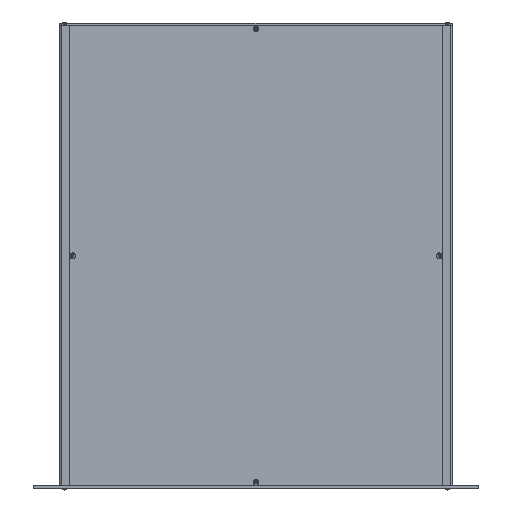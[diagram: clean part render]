
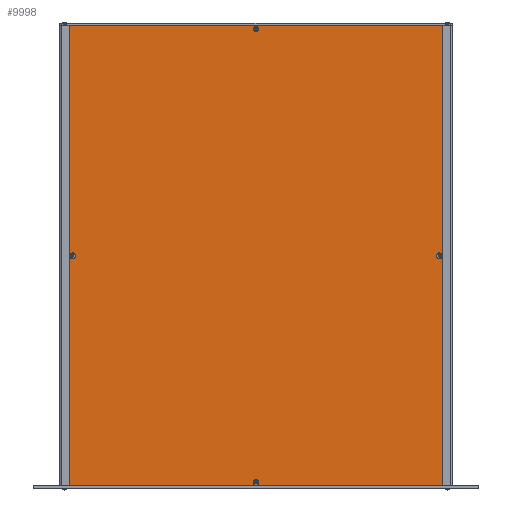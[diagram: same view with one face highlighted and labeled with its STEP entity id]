
A CAD part, top view. The second image highlights one B-rep face of the part: STEP entity #9998.
In plain terms, the highlighted planar face has unit normal (0, 0, 1).
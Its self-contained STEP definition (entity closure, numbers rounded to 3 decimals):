
#715=FACE_BOUND('',#1956,.T.);
#716=FACE_BOUND('',#1957,.T.);
#717=FACE_BOUND('',#1958,.T.);
#718=FACE_BOUND('',#1959,.T.);
#1072=PLANE('',#10913);
#1362=FACE_OUTER_BOUND('',#1955,.T.);
#1955=EDGE_LOOP('',(#7490,#7491,#7492,#7493));
#1956=EDGE_LOOP('',(#7494));
#1957=EDGE_LOOP('',(#7495));
#1958=EDGE_LOOP('',(#7496));
#1959=EDGE_LOOP('',(#7497));
#2923=LINE('',#15671,#3668);
#2924=LINE('',#15673,#3669);
#2925=LINE('',#15675,#3670);
#2926=LINE('',#15676,#3671);
#3668=VECTOR('',#12513,10.);
#3669=VECTOR('',#12514,10.);
#3670=VECTOR('',#12515,10.);
#3671=VECTOR('',#12516,10.);
#4223=CIRCLE('',#10909,3.2);
#4226=CIRCLE('',#10914,3.2);
#4227=CIRCLE('',#10915,3.2);
#4228=CIRCLE('',#10916,3.2);
#4860=VERTEX_POINT('',#15659);
#4863=VERTEX_POINT('',#15669);
#4864=VERTEX_POINT('',#15670);
#4865=VERTEX_POINT('',#15672);
#4866=VERTEX_POINT('',#15674);
#4867=VERTEX_POINT('',#15677);
#4868=VERTEX_POINT('',#15679);
#4869=VERTEX_POINT('',#15681);
#5822=EDGE_CURVE('',#4860,#4860,#4223,.T.);
#5827=EDGE_CURVE('',#4863,#4864,#2923,.T.);
#5828=EDGE_CURVE('',#4864,#4865,#2924,.T.);
#5829=EDGE_CURVE('',#4866,#4865,#2925,.T.);
#5830=EDGE_CURVE('',#4863,#4866,#2926,.T.);
#5831=EDGE_CURVE('',#4867,#4867,#4226,.T.);
#5832=EDGE_CURVE('',#4868,#4868,#4227,.T.);
#5833=EDGE_CURVE('',#4869,#4869,#4228,.T.);
#7490=ORIENTED_EDGE('',*,*,#5827,.T.);
#7491=ORIENTED_EDGE('',*,*,#5828,.T.);
#7492=ORIENTED_EDGE('',*,*,#5829,.F.);
#7493=ORIENTED_EDGE('',*,*,#5830,.F.);
#7494=ORIENTED_EDGE('',*,*,#5831,.F.);
#7495=ORIENTED_EDGE('',*,*,#5832,.F.);
#7496=ORIENTED_EDGE('',*,*,#5833,.F.);
#7497=ORIENTED_EDGE('',*,*,#5822,.F.);
#9998=ADVANCED_FACE('',(#1362,#715,#716,#717,#718),#1072,.T.);
#10909=AXIS2_PLACEMENT_3D('',#15660,#12501,#12502);
#10913=AXIS2_PLACEMENT_3D('',#15668,#12511,#12512);
#10914=AXIS2_PLACEMENT_3D('',#15678,#12517,#12518);
#10915=AXIS2_PLACEMENT_3D('',#15680,#12519,#12520);
#10916=AXIS2_PLACEMENT_3D('',#15682,#12521,#12522);
#12501=DIRECTION('center_axis',(0.,0.,1.));
#12502=DIRECTION('ref_axis',(-1.,0.,0.));
#12511=DIRECTION('center_axis',(0.,0.,1.));
#12512=DIRECTION('ref_axis',(1.,0.,0.));
#12513=DIRECTION('',(1.,0.,0.));
#12514=DIRECTION('',(0.,1.,0.));
#12515=DIRECTION('',(1.,0.,0.));
#12516=DIRECTION('',(0.,1.,0.));
#12517=DIRECTION('center_axis',(0.,0.,1.));
#12518=DIRECTION('ref_axis',(-1.,0.,0.));
#12519=DIRECTION('center_axis',(0.,0.,1.));
#12520=DIRECTION('ref_axis',(-1.,0.,0.));
#12521=DIRECTION('center_axis',(0.,0.,1.));
#12522=DIRECTION('ref_axis',(-1.,0.,0.));
#15659=CARTESIAN_POINT('',(45.5,250.,-42.05));
#15660=CARTESIAN_POINT('Origin',(42.3,250.,-42.05));
#15668=CARTESIAN_POINT('Origin',(38.4,0.,-42.05));
#15669=CARTESIAN_POINT('',(38.4,0.,-42.05));
#15670=CARTESIAN_POINT('',(444.6,0.,-42.05));
#15671=CARTESIAN_POINT('',(38.4,0.,-42.05));
#15672=CARTESIAN_POINT('',(444.6,500.,-42.05));
#15673=CARTESIAN_POINT('',(444.6,0.,-42.05));
#15674=CARTESIAN_POINT('',(38.4,500.,-42.05));
#15675=CARTESIAN_POINT('',(38.4,500.,-42.05));
#15676=CARTESIAN_POINT('',(38.4,0.,-42.05));
#15677=CARTESIAN_POINT('',(443.9,250.,-42.05));
#15678=CARTESIAN_POINT('Origin',(440.7,250.,-42.05));
#15679=CARTESIAN_POINT('',(244.7,496.5,-42.05));
#15680=CARTESIAN_POINT('Origin',(241.5,496.5,-42.05));
#15681=CARTESIAN_POINT('',(244.7,3.5,-42.05));
#15682=CARTESIAN_POINT('Origin',(241.5,3.5,-42.05));
